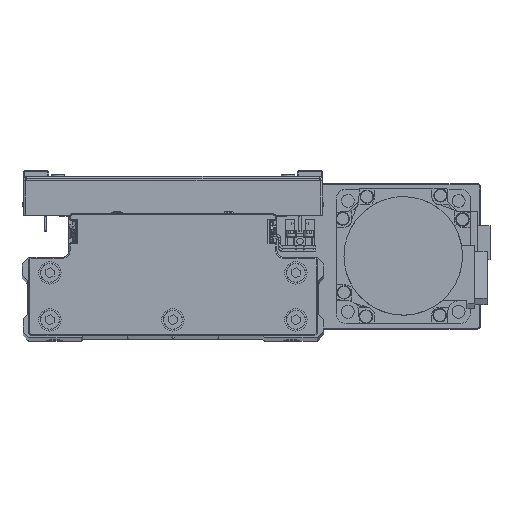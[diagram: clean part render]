
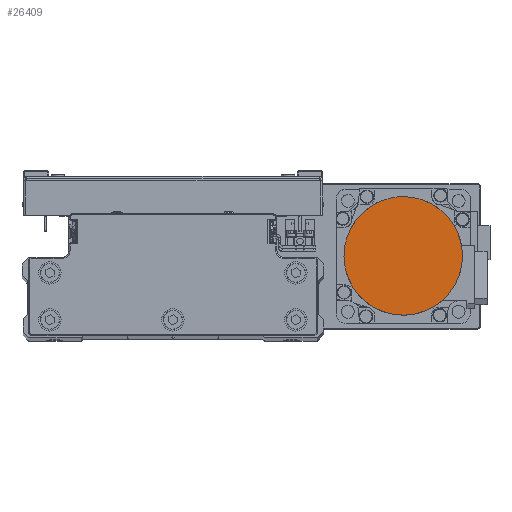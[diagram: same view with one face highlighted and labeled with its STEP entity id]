
A CAD part, top view. The second image highlights one B-rep face of the part: STEP entity #26409.
In plain terms, the highlighted planar face has unit normal (0, 0, 1) as drawn and (0, 0, -1) by its records, which use the part's own axes.
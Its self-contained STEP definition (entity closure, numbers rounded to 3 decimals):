
#1564 = CARTESIAN_POINT ( 'NONE',  ( 13.28, 22.998, -109.7 ) ) ;
#1784 = CARTESIAN_POINT ( 'NONE',  ( -17.512, 19.965, -109.7 ) ) ;
#2746 = B_SPLINE_CURVE_WITH_KNOTS ( 'NONE', 3,
 ( #43450, #23195, #36782, #6268, #19854, #33443, #2940, #16507, #30079, #43669, #13164, #26746, #40336, #9820, #23415, #36997, #6478, #20059, #33642, #3153, #16720, #30296, #43889, #13374, #26962, #40550, #10034, #23620, #37204, #6693, #20277, #33865, #3375, #16940 ),
 .UNSPECIFIED., .F., .F.,
 ( 4, 2, 2, 2, 2, 2, 2, 2, 2, 2, 2, 2, 2, 2, 2, 2, 4 ),
 ( 0., 0.063, 0.125, 0.188, 0.25, 0.312, 0.375, 0.437, 0.5, 0.562, 0.625, 0.687, 0.75, 0.813, 0.875, 0.938, 1. ),
 .UNSPECIFIED. ) ;
#2831 = FACE_OUTER_BOUND ( 'NONE', #18994, .T. ) ;
#2940 = CARTESIAN_POINT ( 'NONE',  ( -22.998, -13.28, -109.7 ) ) ;
#3153 = CARTESIAN_POINT ( 'NONE',  ( 6.871, -25.652, -109.7 ) ) ;
#3375 = CARTESIAN_POINT ( 'NONE',  ( 26.5, -1.734, -109.7 ) ) ;
#4905 = CARTESIAN_POINT ( 'NONE',  ( 19.965, 17.512, -109.7 ) ) ;
#5115 = CARTESIAN_POINT ( 'NONE',  ( -11.744, 23.819, -109.7 ) ) ;
#6268 = CARTESIAN_POINT ( 'NONE',  ( -25.652, -6.871, -109.7 ) ) ;
#6478 = CARTESIAN_POINT ( 'NONE',  ( -1.734, -26.5, -109.7 ) ) ;
#6693 = CARTESIAN_POINT ( 'NONE',  ( 25.147, -8.539, -109.7 ) ) ;
#8252 = CARTESIAN_POINT ( 'NONE',  ( 23.819, 11.744, -109.7 ) ) ;
#8465 = CARTESIAN_POINT ( 'NONE',  ( -3.469, 26.329, -109.7 ) ) ;
#8671 = CARTESIAN_POINT ( 'NONE',  ( -26.329, 3.469, -109.7 ) ) ;
#9820 = CARTESIAN_POINT ( 'NONE',  ( -8.539, -25.147, -109.7 ) ) ;
#10034 = CARTESIAN_POINT ( 'NONE',  ( 21.07, -16.165, -109.7 ) ) ;
#11580 = CARTESIAN_POINT ( 'NONE',  ( 26.329, 3.469, -109.7 ) ) ;
#11804 = CARTESIAN_POINT ( 'NONE',  ( 3.469, 26.329, -109.7 ) ) ;
#12021 = CARTESIAN_POINT ( 'NONE',  ( -23.819, 11.744, -109.7 ) ) ;
#12833 = CARTESIAN_POINT ( 'NONE',  ( -26.5, 0., -109.7 ) ) ;
#13043 = DIRECTION ( 'NONE',  ( 1., 0., 0. ) ) ;
#13164 = CARTESIAN_POINT ( 'NONE',  ( -16.165, -21.07, -109.7 ) ) ;
#13374 = CARTESIAN_POINT ( 'NONE',  ( 16.165, -21.07, -109.7 ) ) ;
#15130 = CARTESIAN_POINT ( 'NONE',  ( 11.744, 23.819, -109.7 ) ) ;
#15353 = CARTESIAN_POINT ( 'NONE',  ( -19.965, 17.512, -109.7 ) ) ;
#16402 = PLANE ( 'NONE',  #40328 ) ;
#16507 = CARTESIAN_POINT ( 'NONE',  ( -21.07, -16.165, -109.7 ) ) ;
#16720 = CARTESIAN_POINT ( 'NONE',  ( 8.539, -25.147, -109.7 ) ) ;
#16940 = CARTESIAN_POINT ( 'NONE',  ( 26.5, 0., -109.7 ) ) ;
#18482 = CARTESIAN_POINT ( 'NONE',  ( 17.512, 19.965, -109.7 ) ) ;
#18687 = CARTESIAN_POINT ( 'NONE',  ( -13.28, 22.998, -109.7 ) ) ;
#18994 = EDGE_LOOP ( 'NONE', ( #24302, #37232 ) ) ;
#19854 = CARTESIAN_POINT ( 'NONE',  ( -25.147, -8.539, -109.7 ) ) ;
#20059 = CARTESIAN_POINT ( 'NONE',  ( 1.734, -26.5, -109.7 ) ) ;
#20277 = CARTESIAN_POINT ( 'NONE',  ( 25.652, -6.871, -109.7 ) ) ;
#21831 = CARTESIAN_POINT ( 'NONE',  ( 22.998, 13.28, -109.7 ) ) ;
#22046 = CARTESIAN_POINT ( 'NONE',  ( -6.871, 25.652, -109.7 ) ) ;
#22257 = CARTESIAN_POINT ( 'NONE',  ( -26.5, 1.734, -109.7 ) ) ;
#22424 = EDGE_CURVE ( 'NONE', #41893, #26381, #26096, .T. ) ;
#23195 = CARTESIAN_POINT ( 'NONE',  ( -26.5, -1.734, -109.7 ) ) ;
#23415 = CARTESIAN_POINT ( 'NONE',  ( -6.871, -25.652, -109.7 ) ) ;
#23620 = CARTESIAN_POINT ( 'NONE',  ( 22.998, -13.28, -109.7 ) ) ;
#24302 = ORIENTED_EDGE ( 'NONE', *, *, #22424, .F. ) ;
#25160 = CARTESIAN_POINT ( 'NONE',  ( 25.652, 6.871, -109.7 ) ) ;
#25377 = CARTESIAN_POINT ( 'NONE',  ( 1.734, 26.5, -109.7 ) ) ;
#25596 = CARTESIAN_POINT ( 'NONE',  ( -25.147, 8.539, -109.7 ) ) ;
#26096 = B_SPLINE_CURVE_WITH_KNOTS ( 'NONE', 3,
 ( #28513, #42083, #11580, #25160, #38751, #8252, #21831, #35403, #4905, #18482, #32069, #1564, #15130, #28724, #42304, #11804, #25377, #38970, #8465, #22046, #35615, #5115, #18687, #32289, #1784, #15353, #28945, #42523, #12021, #25596, #39184, #8671, #22257, #35840 ),
 .UNSPECIFIED., .F., .F.,
 ( 4, 2, 2, 2, 2, 2, 2, 2, 2, 2, 2, 2, 2, 2, 2, 2, 4 ),
 ( 0., 0.062, 0.125, 0.187, 0.25, 0.312, 0.375, 0.437, 0.5, 0.562, 0.625, 0.687, 0.75, 0.813, 0.875, 0.938, 1. ),
 .UNSPECIFIED. ) ;
#26381 = VERTEX_POINT ( 'NONE', #12833 ) ;
#26409 = ADVANCED_FACE ( 'NONE', ( #2831 ), #16402, .F. ) ;
#26746 = CARTESIAN_POINT ( 'NONE',  ( -13.28, -22.998, -109.7 ) ) ;
#26962 = CARTESIAN_POINT ( 'NONE',  ( 17.512, -19.965, -109.7 ) ) ;
#28513 = CARTESIAN_POINT ( 'NONE',  ( 26.5, 0., -109.7 ) ) ;
#28724 = CARTESIAN_POINT ( 'NONE',  ( 8.539, 25.147, -109.7 ) ) ;
#28945 = CARTESIAN_POINT ( 'NONE',  ( -21.07, 16.165, -109.7 ) ) ;
#29766 = EDGE_CURVE ( 'NONE', #26381, #41893, #2746, .T. ) ;
#29957 = CARTESIAN_POINT ( 'NONE',  ( 0., 0., -109.7 ) ) ;
#30079 = CARTESIAN_POINT ( 'NONE',  ( -19.965, -17.512, -109.7 ) ) ;
#30296 = CARTESIAN_POINT ( 'NONE',  ( 11.744, -23.819, -109.7 ) ) ;
#32069 = CARTESIAN_POINT ( 'NONE',  ( 16.165, 21.07, -109.7 ) ) ;
#32289 = CARTESIAN_POINT ( 'NONE',  ( -16.165, 21.07, -109.7 ) ) ;
#33443 = CARTESIAN_POINT ( 'NONE',  ( -23.819, -11.744, -109.7 ) ) ;
#33642 = CARTESIAN_POINT ( 'NONE',  ( 3.469, -26.329, -109.7 ) ) ;
#33865 = CARTESIAN_POINT ( 'NONE',  ( 26.329, -3.469, -109.7 ) ) ;
#35403 = CARTESIAN_POINT ( 'NONE',  ( 21.07, 16.165, -109.7 ) ) ;
#35615 = CARTESIAN_POINT ( 'NONE',  ( -8.539, 25.147, -109.7 ) ) ;
#35840 = CARTESIAN_POINT ( 'NONE',  ( -26.5, 0., -109.7 ) ) ;
#36782 = CARTESIAN_POINT ( 'NONE',  ( -26.329, -3.469, -109.7 ) ) ;
#36997 = CARTESIAN_POINT ( 'NONE',  ( -3.469, -26.329, -109.7 ) ) ;
#37204 = CARTESIAN_POINT ( 'NONE',  ( 23.819, -11.744, -109.7 ) ) ;
#37232 = ORIENTED_EDGE ( 'NONE', *, *, #29766, .F. ) ;
#38665 = CARTESIAN_POINT ( 'NONE',  ( 26.5, 0., -109.7 ) ) ;
#38751 = CARTESIAN_POINT ( 'NONE',  ( 25.147, 8.539, -109.7 ) ) ;
#38970 = CARTESIAN_POINT ( 'NONE',  ( -1.734, 26.5, -109.7 ) ) ;
#39184 = CARTESIAN_POINT ( 'NONE',  ( -25.652, 6.871, -109.7 ) ) ;
#40328 = AXIS2_PLACEMENT_3D ( 'NONE', #29957, #43541, #13043 ) ;
#40336 = CARTESIAN_POINT ( 'NONE',  ( -11.744, -23.819, -109.7 ) ) ;
#40550 = CARTESIAN_POINT ( 'NONE',  ( 19.965, -17.512, -109.7 ) ) ;
#41893 = VERTEX_POINT ( 'NONE', #38665 ) ;
#42083 = CARTESIAN_POINT ( 'NONE',  ( 26.5, 1.734, -109.7 ) ) ;
#42304 = CARTESIAN_POINT ( 'NONE',  ( 6.871, 25.652, -109.7 ) ) ;
#42523 = CARTESIAN_POINT ( 'NONE',  ( -22.998, 13.28, -109.7 ) ) ;
#43450 = CARTESIAN_POINT ( 'NONE',  ( -26.5, 0., -109.7 ) ) ;
#43541 = DIRECTION ( 'NONE',  ( 0., 0., 1. ) ) ;
#43669 = CARTESIAN_POINT ( 'NONE',  ( -17.512, -19.965, -109.7 ) ) ;
#43889 = CARTESIAN_POINT ( 'NONE',  ( 13.28, -22.998, -109.7 ) ) ;
